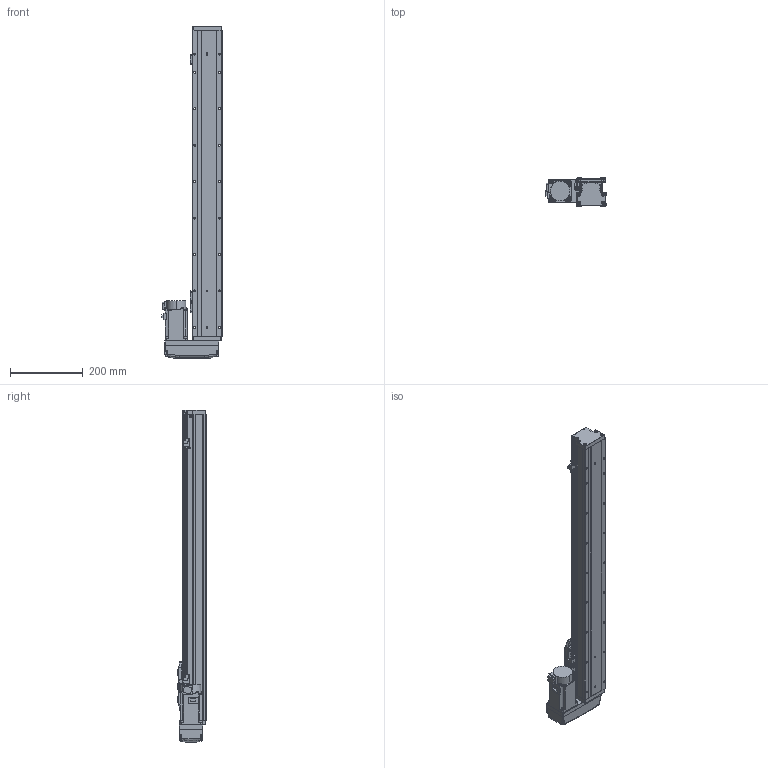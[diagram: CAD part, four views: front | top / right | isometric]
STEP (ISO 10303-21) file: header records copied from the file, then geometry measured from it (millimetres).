
FILE_DESCRIPTION (( 'STEP AP203' ), '1' );
FILE_NAME ('GTH8-650-BL-M20-C4.step', '2022-09-23T01:01:03', ( '微软用户' ), ( '微软中国' ), 'SwSTEP 2.0', 'SolidWorks 2020', '' );
FILE_SCHEMA (( 'CONFIG_CONTROL_DESIGN' ));
Length unit declared in the file: millimetre
Products named in the file (18): GTH80-013; GTH50-023; GBT 70.3-M3℅6; GBT96.1-2002 3×0.8; GTH80-022; BTH-M3X5X6; GTH80-001_650; GBT 70.1-M3℅6; hg-kn43j_-s100_; GTH80-003; GBT 70.1-M4×16; CTHA86-015-1_CTHA86-015-2; GTH80-004; GTH80-028; CTHA86-033_M40B; GTH80-006; GTH50-024; GTH8-650-BL-M20-C4
Assembly tree (57 placements, depth 2):
  GTH8-650-BL-M20-C4
    GTH80-001_650
    GTH80-003
    GTH80-004
    GTH80-006
    GTH80-013
    GBT 70.3-M3℅6  x4
    GTH80-022
    GBT 70.1-M3℅6  x14
    GBT 70.1-M4×16  x8
    GTH80-028  x2
    GTH50-024  x3
    GTH50-023  x3
    GBT96.1-2002 3×0.8  x6
    BTH-M3X5X6  x8
    hg-kn43j_-s100_
    CTHA86-015-1_CTHA86-015-2
    CTHA86-033_M40B
Bounding box: 164.8 x 78 x 911 mm (x, y, z)
Volume: 4626014 mm3; surface area: 480445.5 mm2
Topology: 59 solids, 59 shells, 2244 faces, 5187 edges, 3179 vertices
Faces by surface type: plane 1187, cylinder 615, cone 260, torus 166, bspline 8, sphere 8
Entity records: 41070 total; most frequent: CARTESIAN_POINT 7217, DIRECTION 6677, ORIENTED_EDGE 6192, EDGE_CURVE 3096, AXIS2_PLACEMENT_3D 2337, LINE 2003, VECTOR 2003, VERTEX_POINT 1954
